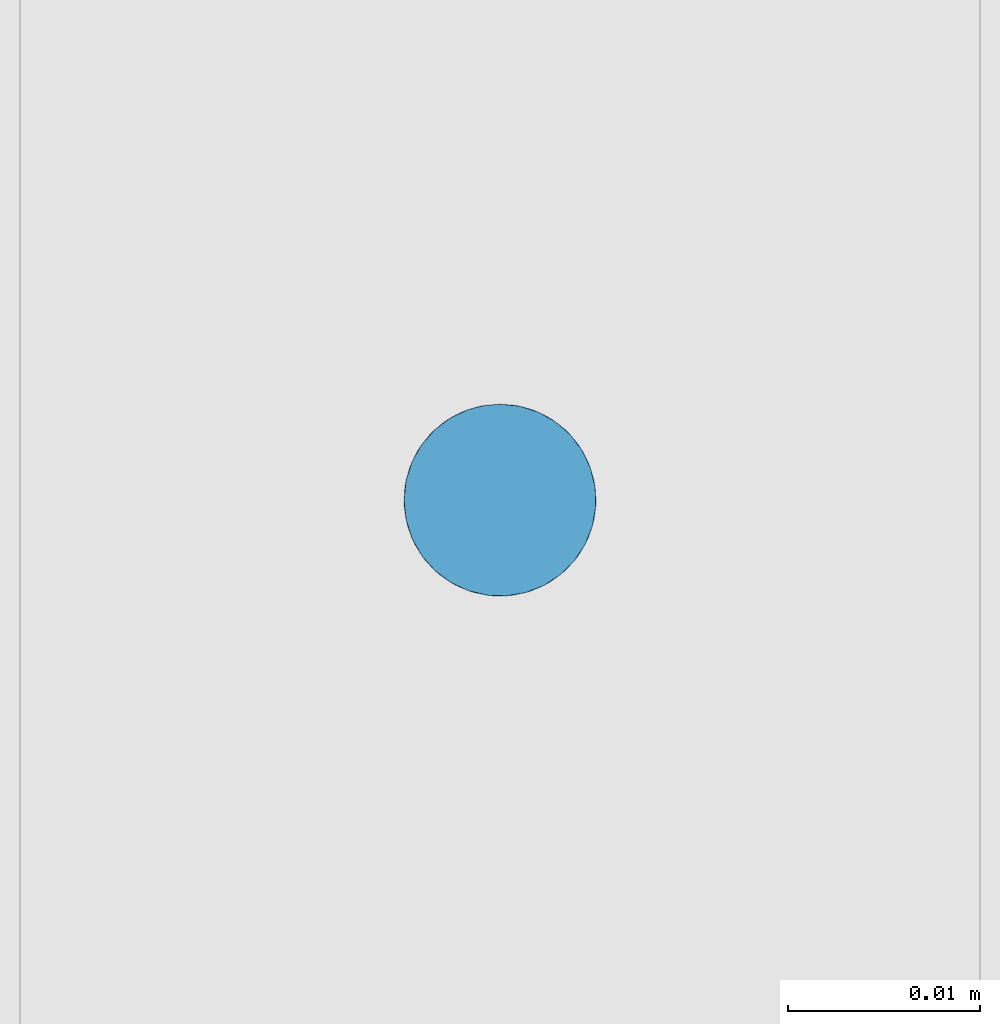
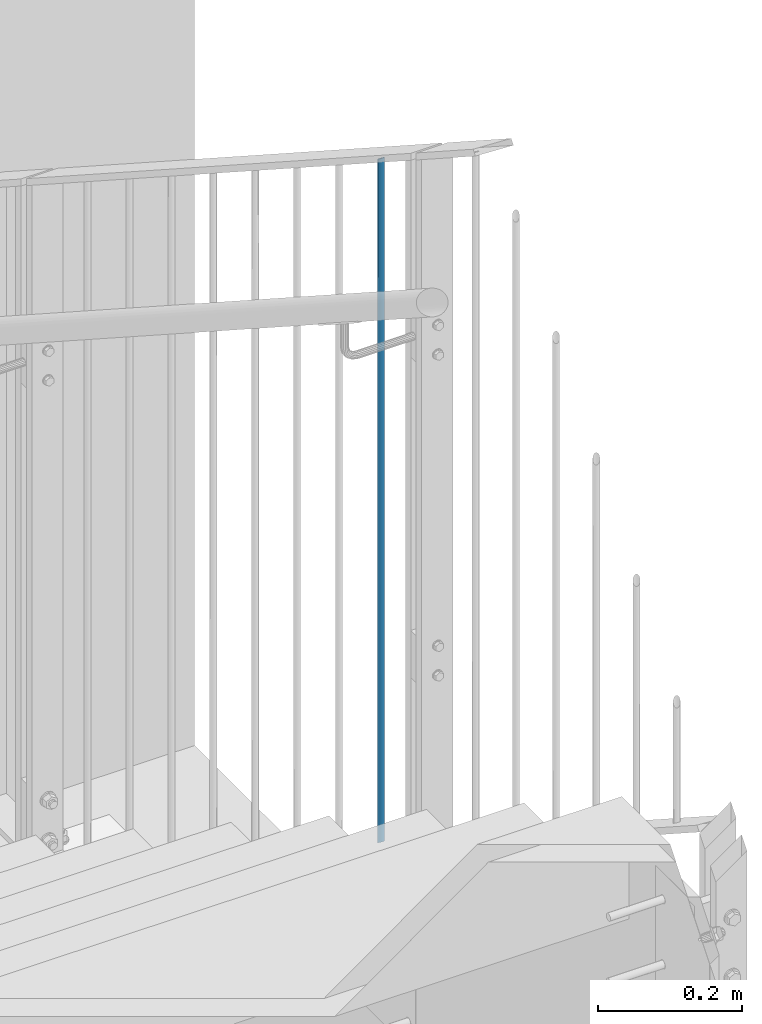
# One storey, part 41 of 296: 1 column.
"""IFC2X3 building model written with IfcOpenShell, lengths in millimetres."""

from ifc_helpers import new_model, entity, si_unit, converted_unit, frame, origin, origin_with_axes, origin_2d, place, context, project, spatial, circle, extrude, clip, halfspace, material, element, save


model = new_model("IFC2X3")

# Units and contexts
model_context = context("Model", 3, precision=1e-09, world=origin_with_axes())
ifc_project = project(units=[si_unit("LENGTHUNIT", "METRE", prefix="MILLI"), si_unit("AREAUNIT", "SQUARE_METRE"), si_unit("VOLUMEUNIT", "CUBIC_METRE"), converted_unit("PLANEANGLEUNIT", "DEGREE", entity("IfcPlaneAngleMeasure", 0.01745329), si_unit("PLANEANGLEUNIT", "RADIAN"), dimensions=[0, 0, 0, 0, 0, 0, 0])], contexts=[model_context])

# Site, building, storey
site_placement = place(None, origin_with_axes())
site = spatial("IfcSite", under=ifc_project, at=site_placement, Name="TZD-S?d | Treppenhausgel?nder", CompositionType="ELEMENT")
building_placement = place(site_placement, origin_with_axes())
building = spatial("IfcBuilding", under=site, at=building_placement, Name="Struktur 1", CompositionType="ELEMENT")
storey_placement = place(building_placement, origin_with_axes())
storey = spatial("IfcBuildingStorey", under=building, at=storey_placement, Name="Default Storey", CompositionType="ELEMENT", Elevation=0.0)

# Column
ifc_material = material(Name="S235JR")
column_placement = place(None, frame((5894.999, -1386.3888889, 3438.011732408), z_axis=(0.0, 0.0, -1.0), x_axis=(0.0, 1.0, 0.0)))
element("IfcColumn", 1, at=column_placement, inside=storey, material=ifc_material, Name="-", ObjectType="-", context=model_context, shape_type="Clipping", body=[
    clip(clip(extrude(circle(Radius=5.0, at=origin_2d()), origin(), (0.0, 0.0, -1.0), 1184.932529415), halfspace(frame((3078.974631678, -5894.999, 820.202885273), z_axis=(-0.542959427, 0.0, 0.83975893), x_axis=(0.0, 1.0, 0.0)), True)), halfspace(frame((2551.807973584, -5894.999, 1635.536198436), z_axis=(0.542959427, 0.0, -0.83975893), x_axis=(0.0, -1.0, 0.0)), True)),
])

save(model, "model.ifc")
